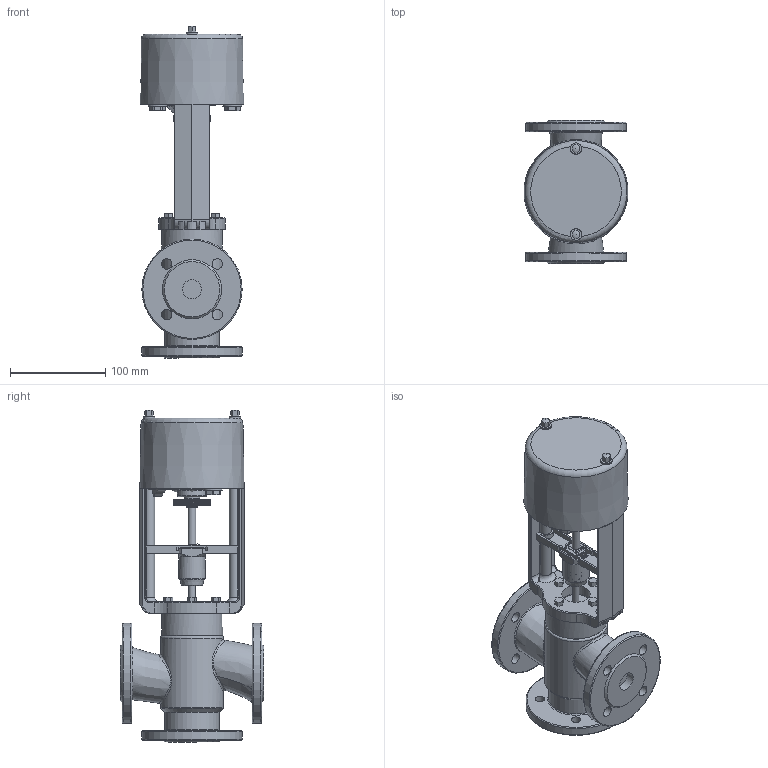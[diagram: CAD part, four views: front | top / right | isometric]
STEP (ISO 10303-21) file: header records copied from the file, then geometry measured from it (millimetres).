
FILE_DESCRIPTION(/* description */ (''),/* implementation_level */ '2;1');
FILE_NAME(/* name */ 'D:\Работа\work by\2017.01.17. клапаны для КПСР 3-хходоввые\Готовые файлы\ES 05\iges\ду 20.stp',/* time_stamp */ '2017-02-23T16:13:16+03:00',/* author */ ('Admin'),/* organization */ ('unknown'),/* preprocessor_version */ 'ST-DEVELOPER v16.1',/* originating_system */ 'Autodesk Inventor 2016',/* authorisation */ '');
FILE_SCHEMA (('AUTOMOTIVE_DESIGN { 1 0 10303 214 3 1 1 }'));
Length unit declared in the file: millimetre
Products named in the file (1): ду 20
Bounding box: 108.86 x 150 x 347.85 mm (x, y, z)
Volume: 1035015.1 mm3; surface area: 256287.1 mm2
Topology: 2 solids, 2 shells, 1227 faces, 3399 edges, 2199 vertices
Faces by surface type: plane 564, cylinder 314, bspline 220, cone 66, torus 52, sphere 11
Full cylindrical faces by diameter (mm): 5.1 x4, 6 x3, 7 x4, 7.1 x1, 8 x3, 8.4 x1, 8.5 x2, 9.18 x1, 9.2 x1, 9.22 x1, 9.3 x1, 10 x4, 11 x9, 11.9 x1, 11.97 x1, 12 x6, 13.5 x1, 14 x2, 14.5 x1, 16 x3, 16.8 x1, 16.9 x1, 17.1 x1, 18 x2, 19.3 x1, 20 x6, 22 x1, 25.7 x4, 26 x1, 26.5 x1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
Entity records: 45139 total; most frequent: CARTESIAN_POINT 15853, ORIENTED_EDGE 6394, DIRECTION 5496, EDGE_CURVE 3194, VERTEX_POINT 2150, AXIS2_PLACEMENT_3D 1862, LINE 1772, VECTOR 1772
